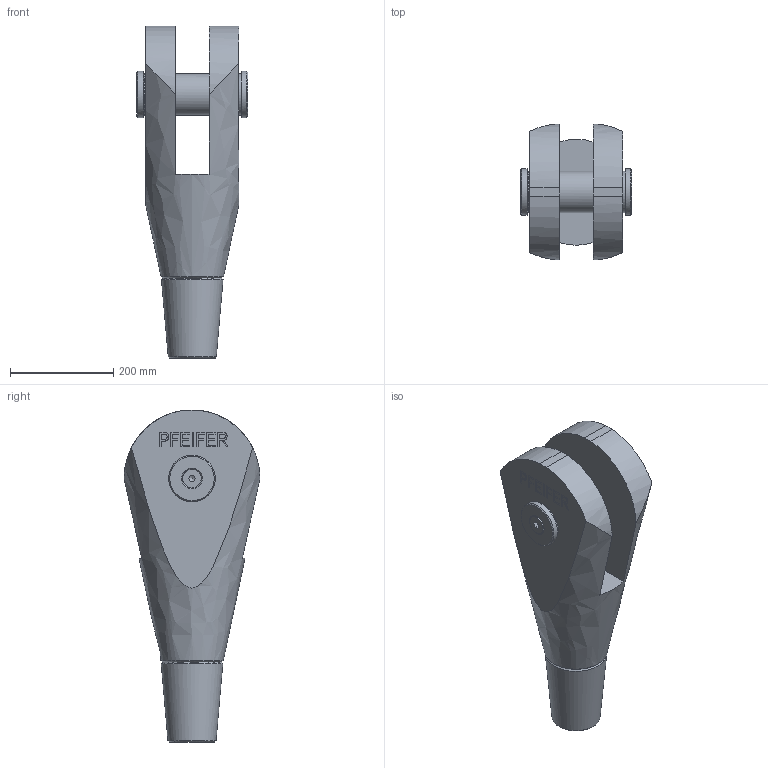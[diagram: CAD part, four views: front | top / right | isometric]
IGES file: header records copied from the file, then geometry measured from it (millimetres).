
Global section: file name: 520-080-GAK; native system: Autodesk Inventor 2016; preprocessor: unknown; author: Administrator; date: 20200625.080529; units: centimetre
Bounding box: 216 x 263.44 x 643.69 mm (x, y, z)
Volume: 12196195.4 mm3; surface area: 607465 mm2
Topology: 2 solids, 4 shells, 186 faces, 491 edges, 328 vertices
Faces by surface type: bspline 186
